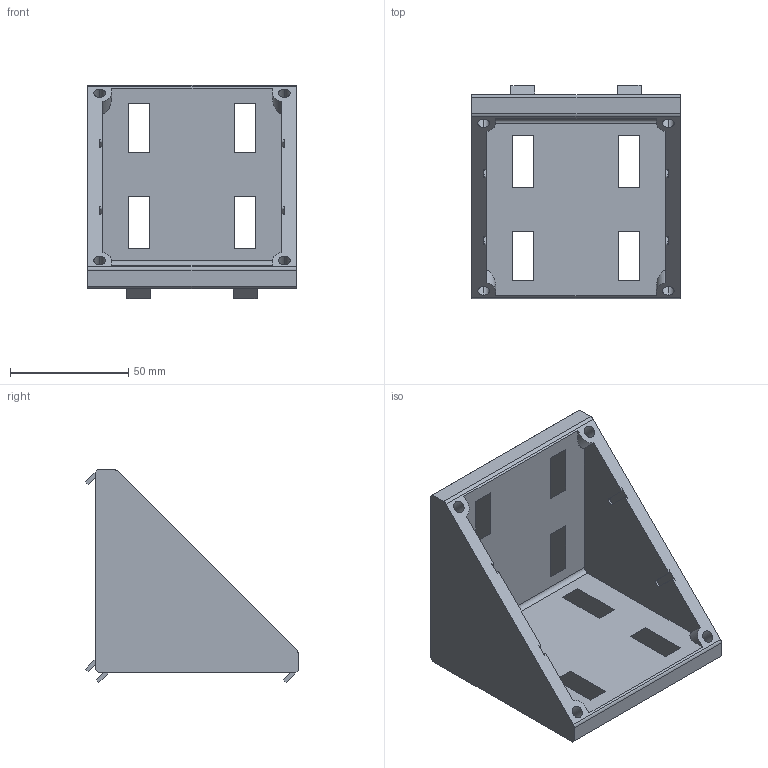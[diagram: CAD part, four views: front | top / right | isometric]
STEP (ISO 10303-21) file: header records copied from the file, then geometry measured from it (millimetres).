
FILE_DESCRIPTION (( 'STEP AP203' ), '1' );
FILE_NAME ('0110W9090.STEP', '2024-09-05T12:48:17', ( 'Windows-Benutzer' ), ( '' ), 'SwSTEP 2.0', 'SolidWorks 2024', '' );
FILE_SCHEMA (( 'CONFIG_CONTROL_DESIGN' ));
Length unit declared in the file: millimetre
Products named in the file (1): 0110W9090
Bounding box: 88 x 90.03 x 90.03 mm (x, y, z)
Volume: 123160.6 mm3; surface area: 52933.7 mm2
Topology: 1 solids, 1 shells, 165 faces, 460 edges, 304 vertices
Faces by surface type: plane 134, cylinder 31
Entity records: 5337 total; most frequent: CARTESIAN_POINT 942, ORIENTED_EDGE 920, DIRECTION 846, EDGE_CURVE 460, VECTOR 398, LINE 398, VERTEX_POINT 304, AXIS2_PLACEMENT_3D 224
